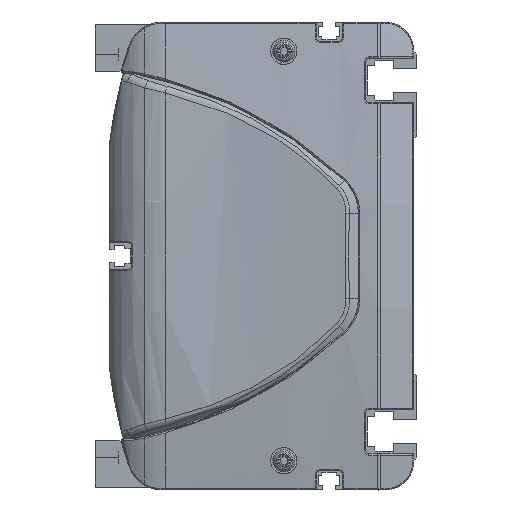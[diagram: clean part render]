
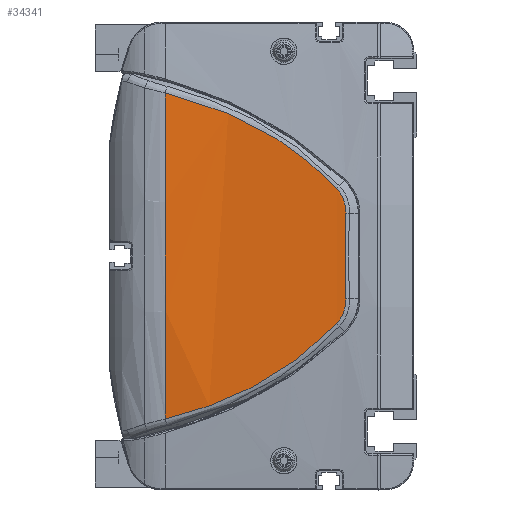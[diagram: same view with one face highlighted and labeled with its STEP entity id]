
A CAD part, left-side view. The second image highlights one B-rep face of the part: STEP entity #34341.
In plain terms, the highlighted cylindrical face has radius 600 mm (diameter 1200 mm), a partial arc.
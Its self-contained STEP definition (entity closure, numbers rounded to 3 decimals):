
#11514=CARTESIAN_POINT('',(-12.406,86.,
55.736));
#11515=CARTESIAN_POINT('',(-12.529,80.495,
54.41));
#11516=CARTESIAN_POINT('',(-12.828,69.636,
51.114));
#11517=CARTESIAN_POINT('',(-13.389,54.079,
44.179));
#11518=CARTESIAN_POINT('',(-14.01,39.709,
34.979));
#11519=CARTESIAN_POINT('',(-14.395,31.353,
27.243));
#11520=CARTESIAN_POINT('',(-14.555,27.451,
23.113));
#11522=CARTESIAN_POINT('',(-14.555,27.451,
23.113));
#11523=CARTESIAN_POINT('',(-14.641,25.336,
20.875));
#11524=CARTESIAN_POINT('',(-14.745,24.202,
17.745));
#11525=CARTESIAN_POINT('',(-14.821,24.351,
14.67));
#11527=CARTESIAN_POINT('',(-14.821,24.351,
14.67));
#11528=CARTESIAN_POINT('',(-14.9,24.51,
11.413));
#11529=CARTESIAN_POINT('',(-15.007,24.721,
4.895));
#11530=CARTESIAN_POINT('',(-15.007,24.721,
-4.895));
#11531=CARTESIAN_POINT('',(-14.9,24.51,
-11.413));
#11532=CARTESIAN_POINT('',(-14.821,24.351,
-14.67));
#11534=CARTESIAN_POINT('',(-14.821,24.351,
-14.67));
#11535=CARTESIAN_POINT('',(-14.745,24.202,
-17.745));
#11536=CARTESIAN_POINT('',(-14.641,25.337,
-20.876));
#11537=CARTESIAN_POINT('',(-14.555,27.451,
-23.113));
#11539=CARTESIAN_POINT('',(-14.555,27.451,
-23.113));
#11540=CARTESIAN_POINT('',(-14.395,31.353,
-27.243));
#11541=CARTESIAN_POINT('',(-14.01,39.709,
-34.979));
#11542=CARTESIAN_POINT('',(-13.389,54.079,
-44.179));
#11543=CARTESIAN_POINT('',(-12.828,69.636,
-51.114));
#11544=CARTESIAN_POINT('',(-12.529,80.495,
-54.41));
#11545=CARTESIAN_POINT('',(-12.406,86.,
-55.736));
#11547=CARTESIAN_POINT('',(585.,86.,0.));
#11548=DIRECTION('',(0.,1.,0.));
#11549=DIRECTION('',(-0.996,0.,-0.093));
#11550=AXIS2_PLACEMENT_3D('',#11547,#11548,#11549);
#11563=CARTESIAN_POINT('',(-12.406,86.,
55.736));
#14800=VERTEX_POINT('',#11563);
#14801=CARTESIAN_POINT('',(-12.406,86.,
-55.736));
#14802=VERTEX_POINT('',#14801);
#14852=VERTEX_POINT('',#11520);
#14853=VERTEX_POINT('',#11525);
#14854=VERTEX_POINT('',#11532);
#14855=VERTEX_POINT('',#11537);
#34323=CARTESIAN_POINT('',(585.,87.45,0.));
#34324=DIRECTION('',(0.,-1.,0.));
#34325=DIRECTION('',(0.,0.,-1.));
#34326=AXIS2_PLACEMENT_3D('',#34323,#34324,#34325);
#34327=CYLINDRICAL_SURFACE('',#34326,600.);
#34329=ORIENTED_EDGE('',*,*,#34328,.T.);
#34331=ORIENTED_EDGE('',*,*,#34330,.T.);
#34332=ORIENTED_EDGE('',*,*,#34313,.T.);
#34334=ORIENTED_EDGE('',*,*,#34333,.T.);
#34336=ORIENTED_EDGE('',*,*,#34335,.T.);
#34338=ORIENTED_EDGE('',*,*,#34337,.T.);
#34339=EDGE_LOOP('',(#34329,#34331,#34332,#34334,#34336,#34338));
#34340=FACE_OUTER_BOUND('',#34339,.F.);
#34341=ADVANCED_FACE('',(#34340),#34327,.T.);
#11521=B_SPLINE_CURVE_WITH_KNOTS('',3,(#11514,#11515,#11516,#11517,#11518,
#11519,#11520),.UNSPECIFIED.,.F.,.F.,(4,1,1,1,4),(0.,0.25,0.5,0.75,
1.),.UNSPECIFIED.);
#11526=B_SPLINE_CURVE_WITH_KNOTS('',3,(#11522,#11523,#11524,#11525),
.UNSPECIFIED.,.F.,.F.,(4,4),(0.,1.),.UNSPECIFIED.);
#11533=B_SPLINE_CURVE_WITH_KNOTS('',3,(#11527,#11528,#11529,#11530,#11531,
#11532),.UNSPECIFIED.,.F.,.F.,(4,1,1,4),(0.,0.333,
0.667,1.),.UNSPECIFIED.);
#11538=B_SPLINE_CURVE_WITH_KNOTS('',3,(#11534,#11535,#11536,#11537),
.UNSPECIFIED.,.F.,.F.,(4,4),(0.,1.),.UNSPECIFIED.);
#11546=B_SPLINE_CURVE_WITH_KNOTS('',3,(#11539,#11540,#11541,#11542,#11543,
#11544,#11545),.UNSPECIFIED.,.F.,.F.,(4,1,1,1,4),(0.,0.25,0.5,0.75,
1.),.UNSPECIFIED.);
#11551=CIRCLE('',#11550,600.);
#34313=EDGE_CURVE('',#14853,#14854,#11533,.T.);
#34328=EDGE_CURVE('',#14800,#14852,#11521,.T.);
#34330=EDGE_CURVE('',#14852,#14853,#11526,.T.);
#34333=EDGE_CURVE('',#14854,#14855,#11538,.T.);
#34335=EDGE_CURVE('',#14855,#14802,#11546,.T.);
#34337=EDGE_CURVE('',#14802,#14800,#11551,.T.);
